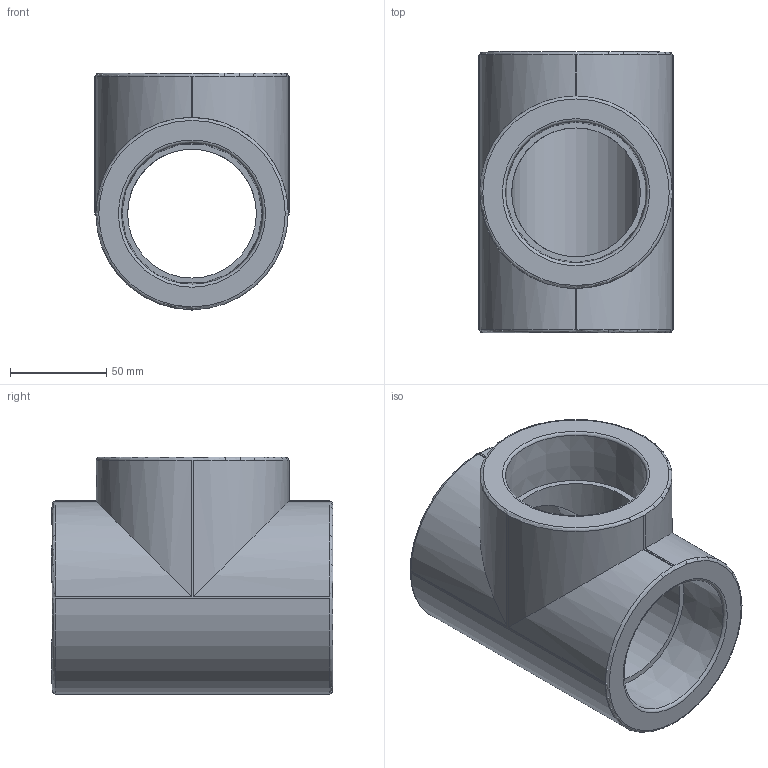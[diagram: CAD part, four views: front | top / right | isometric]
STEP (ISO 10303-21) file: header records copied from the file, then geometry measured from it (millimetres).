
FILE_DESCRIPTION(('STEP AP203'), '1');
FILE_NAME('ÂÐ.752241.032 - VTp.731.0.075', '', ('UNSPECIFIED'), ('UNSPECIFIED'), 'C3D Converter', 'C3D Toolkit', '');
FILE_SCHEMA(('CONFIG_CONTROL_DESIGN'));
Length unit declared in the file: millimetre
Products named in the file (1): ВР.752241.032
Bounding box: 101 x 146.5 x 123.5 mm (x, y, z)
Volume: 652475.9 mm3; surface area: 100316.3 mm2
Topology: 1 solids, 1 shells, 1039 faces, 2914 edges, 1933 vertices
Faces by surface type: extrusion 600, plane 393, cylinder 37, torus 6, cone 3
Full cylindrical faces by diameter (mm): 8 x1, 67 x2
Entity records: 38616 total; most frequent: CARTESIAN_POINT 15065, ORIENTED_EDGE 5802, DIRECTION 2923, EDGE_CURVE 2901, VECTOR 1961, VERTEX_POINT 1933, B_SPLINE_CURVE_WITH_KNOTS 1802, LINE 1361
